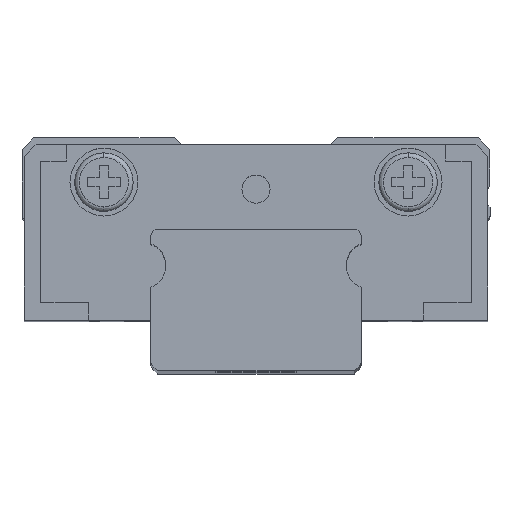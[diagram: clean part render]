
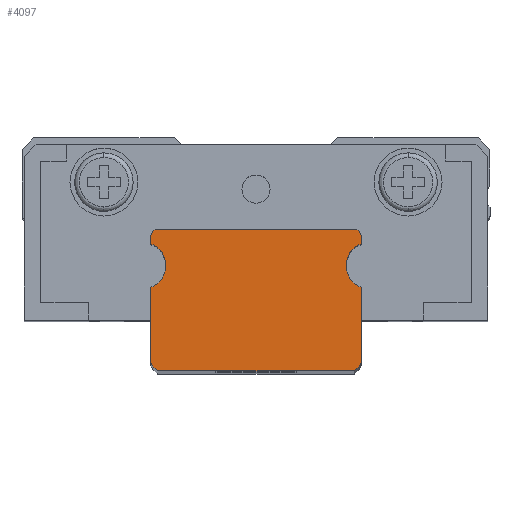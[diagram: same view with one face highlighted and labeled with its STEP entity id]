
A CAD part, top view. The second image highlights one B-rep face of the part: STEP entity #4097.
In plain terms, the highlighted planar face has unit normal (0, 0, 1).
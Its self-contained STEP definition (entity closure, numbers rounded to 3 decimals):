
#168 = ORIENTED_EDGE ( 'NONE', *, *, #11057, .T. ) ;
#179 = VERTEX_POINT ( 'NONE', #910 ) ;
#465 = CARTESIAN_POINT ( 'NONE',  ( -4.5, 0.424, 80. ) ) ;
#546 = VERTEX_POINT ( 'NONE', #5192 ) ;
#572 = DIRECTION ( 'NONE',  ( 1., 0., 0. ) ) ;
#842 = EDGE_CURVE ( 'NONE', #11791, #10097, #5273, .T. ) ;
#895 = VERTEX_POINT ( 'NONE', #3646 ) ;
#910 = CARTESIAN_POINT ( 'NONE',  ( -4.309, 6.05, 80. ) ) ;
#1051 = EDGE_CURVE ( 'NONE', #5783, #11094, #1657, .T. ) ;
#1071 = AXIS2_PLACEMENT_3D ( 'NONE', #10131, #8027, #9086 ) ;
#1224 = CARTESIAN_POINT ( 'NONE',  ( 4.85, 4.5, 80. ) ) ;
#1247 = CARTESIAN_POINT ( 'NONE',  ( 3.85, 4.5, 80. ) ) ;
#1300 = DIRECTION ( 'NONE',  ( 0., 0., -1. ) ) ;
#1317 = VECTOR ( 'NONE', #2280, 1000. ) ;
#1569 = ORIENTED_EDGE ( 'NONE', *, *, #11492, .T. ) ;
#1654 = VECTOR ( 'NONE', #7160, 1000. ) ;
#1657 = CIRCLE ( 'NONE', #9015, 0.3 ) ;
#1687 = CARTESIAN_POINT ( 'NONE',  ( 4.2, 0., 80. ) ) ;
#1880 = DIRECTION ( 'NONE',  ( 0., 0., 1. ) ) ;
#1995 = VERTEX_POINT ( 'NONE', #9232 ) ;
#2025 = VERTEX_POINT ( 'NONE', #10306 ) ;
#2093 = VECTOR ( 'NONE', #6023, 1000. ) ;
#2127 = VECTOR ( 'NONE', #2634, 1000. ) ;
#2169 = ORIENTED_EDGE ( 'NONE', *, *, #10144, .T. ) ;
#2280 = DIRECTION ( 'NONE',  ( 0., -1., 0. ) ) ;
#2502 = DIRECTION ( 'NONE',  ( 1., 0., 0. ) ) ;
#2560 = CARTESIAN_POINT ( 'NONE',  ( 4.412, 0.212, 80. ) ) ;
#2634 = DIRECTION ( 'NONE',  ( -0.707, -0.707, 0. ) ) ;
#2737 = ORIENTED_EDGE ( 'NONE', *, *, #7597, .T. ) ;
#2845 = LINE ( 'NONE', #11078, #6461 ) ;
#2873 = DIRECTION ( 'NONE',  ( 1., 0., 0. ) ) ;
#2909 = EDGE_CURVE ( 'NONE', #6314, #11791, #5676, .T. ) ;
#3146 = EDGE_CURVE ( 'NONE', #2025, #3468, #12414, .T. ) ;
#3332 = CARTESIAN_POINT ( 'NONE',  ( -4.2, 0.424, 80. ) ) ;
#3462 = AXIS2_PLACEMENT_3D ( 'NONE', #3775, #12260, #12222 ) ;
#3468 = VERTEX_POINT ( 'NONE', #5156 ) ;
#3481 = DIRECTION ( 'NONE',  ( 0., 0., 1. ) ) ;
#3493 = VERTEX_POINT ( 'NONE', #1247 ) ;
#3507 = DIRECTION ( 'NONE',  ( 0., 1., 0. ) ) ;
#3629 = AXIS2_PLACEMENT_3D ( 'NONE', #3332, #7161, #9999 ) ;
#3646 = CARTESIAN_POINT ( 'NONE',  ( 4.309, 6.05, 80. ) ) ;
#3775 = CARTESIAN_POINT ( 'NONE',  ( 4.2, 5.734, 80. ) ) ;
#4097 = ADVANCED_FACE ( 'NONE', ( #4459 ), #11971, .T. ) ;
#4148 = AXIS2_PLACEMENT_3D ( 'NONE', #10169, #9382, #2502 ) ;
#4153 = VECTOR ( 'NONE', #9168, 1000. ) ;
#4164 = CIRCLE ( 'NONE', #3462, 0.3 ) ;
#4256 = CARTESIAN_POINT ( 'NONE',  ( 4.309, 6.05, 80. ) ) ;
#4270 = EDGE_CURVE ( 'NONE', #5463, #895, #8457, .T. ) ;
#4375 = VECTOR ( 'NONE', #8529, 1000. ) ;
#4459 = FACE_OUTER_BOUND ( 'NONE', #9920, .T. ) ;
#4522 = LINE ( 'NONE', #12001, #1654 ) ;
#4531 = LINE ( 'NONE', #4830, #5726 ) ;
#4587 = EDGE_CURVE ( 'NONE', #179, #5783, #4988, .T. ) ;
#4830 = CARTESIAN_POINT ( 'NONE',  ( 4.2, 0., 80. ) ) ;
#4953 = LINE ( 'NONE', #10782, #2093 ) ;
#4988 = LINE ( 'NONE', #7405, #2127 ) ;
#5156 = CARTESIAN_POINT ( 'NONE',  ( 4.5, 5.734, 80. ) ) ;
#5190 = EDGE_CURVE ( 'NONE', #10549, #3493, #7532, .T. ) ;
#5192 = CARTESIAN_POINT ( 'NONE',  ( -4.5, 3.563, 80. ) ) ;
#5273 = LINE ( 'NONE', #8456, #4375 ) ;
#5463 = VERTEX_POINT ( 'NONE', #10135 ) ;
#5473 = CARTESIAN_POINT ( 'NONE',  ( -4.412, 5.946, 80. ) ) ;
#5676 = CIRCLE ( 'NONE', #3629, 0.3 ) ;
#5726 = VECTOR ( 'NONE', #10660, 1000. ) ;
#5783 = VERTEX_POINT ( 'NONE', #5473 ) ;
#5792 = VERTEX_POINT ( 'NONE', #1687 ) ;
#5823 = DIRECTION ( 'NONE',  ( 0., 0., -1. ) ) ;
#5856 = VERTEX_POINT ( 'NONE', #11432 ) ;
#5996 = CARTESIAN_POINT ( 'NONE',  ( -4.5, 5.734, 80. ) ) ;
#6023 = DIRECTION ( 'NONE',  ( 1., 0., 0. ) ) ;
#6117 = DIRECTION ( 'NONE',  ( 1., 0., 0. ) ) ;
#6212 = DIRECTION ( 'NONE',  ( -1., 0., 0. ) ) ;
#6267 = EDGE_CURVE ( 'NONE', #11094, #5856, #4522, .T. ) ;
#6314 = VERTEX_POINT ( 'NONE', #465 ) ;
#6382 = CARTESIAN_POINT ( 'NONE',  ( 4.2, 0.424, 80. ) ) ;
#6386 = ORIENTED_EDGE ( 'NONE', *, *, #8566, .T. ) ;
#6461 = VECTOR ( 'NONE', #3507, 1000. ) ;
#6510 = ORIENTED_EDGE ( 'NONE', *, *, #8856, .T. ) ;
#6570 = LINE ( 'NONE', #4256, #7014 ) ;
#6745 = ORIENTED_EDGE ( 'NONE', *, *, #2909, .T. ) ;
#6777 = ORIENTED_EDGE ( 'NONE', *, *, #1051, .T. ) ;
#6789 = CIRCLE ( 'NONE', #4148, 1. ) ;
#6971 = EDGE_CURVE ( 'NONE', #546, #6314, #11404, .T. ) ;
#7014 = VECTOR ( 'NONE', #6212, 1000. ) ;
#7088 = CARTESIAN_POINT ( 'NONE',  ( -4.2, 0., 80. ) ) ;
#7160 = DIRECTION ( 'NONE',  ( 0., -1., 0. ) ) ;
#7161 = DIRECTION ( 'NONE',  ( 0., 0., 1. ) ) ;
#7405 = CARTESIAN_POINT ( 'NONE',  ( -4.309, 6.05, 80. ) ) ;
#7462 = AXIS2_PLACEMENT_3D ( 'NONE', #1224, #1300, #6117 ) ;
#7532 = CIRCLE ( 'NONE', #10891, 1. ) ;
#7597 = EDGE_CURVE ( 'NONE', #895, #179, #6570, .T. ) ;
#7803 = ORIENTED_EDGE ( 'NONE', *, *, #6267, .T. ) ;
#7847 = VERTEX_POINT ( 'NONE', #2560 ) ;
#7897 = EDGE_CURVE ( 'NONE', #3468, #5463, #4164, .T. ) ;
#7976 = CIRCLE ( 'NONE', #11744, 0.3 ) ;
#8027 = DIRECTION ( 'NONE',  ( 0., 0., 1. ) ) ;
#8200 = CARTESIAN_POINT ( 'NONE',  ( 4.5, 5.437, 80. ) ) ;
#8456 = CARTESIAN_POINT ( 'NONE',  ( -4.412, 0.212, 80. ) ) ;
#8457 = LINE ( 'NONE', #9133, #10404 ) ;
#8529 = DIRECTION ( 'NONE',  ( 0.707, -0.707, 0. ) ) ;
#8566 = EDGE_CURVE ( 'NONE', #1995, #10549, #2845, .T. ) ;
#8856 = EDGE_CURVE ( 'NONE', #5792, #7847, #4531, .T. ) ;
#8974 = CARTESIAN_POINT ( 'NONE',  ( -4.5, 3.563, 80. ) ) ;
#8992 = ORIENTED_EDGE ( 'NONE', *, *, #6971, .T. ) ;
#9015 = AXIS2_PLACEMENT_3D ( 'NONE', #10630, #1880, #11640 ) ;
#9080 = ORIENTED_EDGE ( 'NONE', *, *, #5190, .T. ) ;
#9086 = DIRECTION ( 'NONE',  ( 1., 0., 0. ) ) ;
#9133 = CARTESIAN_POINT ( 'NONE',  ( 4.412, 5.946, 80. ) ) ;
#9168 = DIRECTION ( 'NONE',  ( 0., 1., 0. ) ) ;
#9232 = CARTESIAN_POINT ( 'NONE',  ( 4.5, 0.424, 80. ) ) ;
#9341 = CIRCLE ( 'NONE', #7462, 1. ) ;
#9382 = DIRECTION ( 'NONE',  ( 0., 0., -1. ) ) ;
#9681 = ORIENTED_EDGE ( 'NONE', *, *, #12185, .T. ) ;
#9760 = ORIENTED_EDGE ( 'NONE', *, *, #842, .T. ) ;
#9920 = EDGE_LOOP ( 'NONE', ( #1569, #6386, #9080, #168, #10205, #11418, #11016, #2737, #10260, #6777, #7803, #2169, #8992, #6745, #9760, #9681, #6510 ) ) ;
#9999 = DIRECTION ( 'NONE',  ( 1., 0., 0. ) ) ;
#10053 = DIRECTION ( 'NONE',  ( -0.707, 0.707, 0. ) ) ;
#10097 = VERTEX_POINT ( 'NONE', #7088 ) ;
#10131 = CARTESIAN_POINT ( 'NONE',  ( 4.2, 0.424, 80. ) ) ;
#10135 = CARTESIAN_POINT ( 'NONE',  ( 4.412, 5.946, 80. ) ) ;
#10144 = EDGE_CURVE ( 'NONE', #5856, #546, #6789, .T. ) ;
#10169 = CARTESIAN_POINT ( 'NONE',  ( -4.85, 4.5, 80. ) ) ;
#10205 = ORIENTED_EDGE ( 'NONE', *, *, #3146, .T. ) ;
#10260 = ORIENTED_EDGE ( 'NONE', *, *, #4587, .T. ) ;
#10306 = CARTESIAN_POINT ( 'NONE',  ( 4.5, 5.437, 80. ) ) ;
#10404 = VECTOR ( 'NONE', #10053, 1000. ) ;
#10549 = VERTEX_POINT ( 'NONE', #10668 ) ;
#10630 = CARTESIAN_POINT ( 'NONE',  ( -4.2, 5.734, 80. ) ) ;
#10660 = DIRECTION ( 'NONE',  ( 0.707, 0.707, 0. ) ) ;
#10668 = CARTESIAN_POINT ( 'NONE',  ( 4.5, 3.563, 80. ) ) ;
#10782 = CARTESIAN_POINT ( 'NONE',  ( -4.2, 0., 80. ) ) ;
#10891 = AXIS2_PLACEMENT_3D ( 'NONE', #12252, #5823, #2873 ) ;
#11016 = ORIENTED_EDGE ( 'NONE', *, *, #4270, .T. ) ;
#11057 = EDGE_CURVE ( 'NONE', #3493, #2025, #9341, .T. ) ;
#11078 = CARTESIAN_POINT ( 'NONE',  ( 4.5, 0.424, 80. ) ) ;
#11094 = VERTEX_POINT ( 'NONE', #5996 ) ;
#11404 = LINE ( 'NONE', #8974, #1317 ) ;
#11418 = ORIENTED_EDGE ( 'NONE', *, *, #7897, .T. ) ;
#11432 = CARTESIAN_POINT ( 'NONE',  ( -4.5, 5.437, 80. ) ) ;
#11492 = EDGE_CURVE ( 'NONE', #7847, #1995, #7976, .T. ) ;
#11520 = CARTESIAN_POINT ( 'NONE',  ( -4.412, 0.212, 80. ) ) ;
#11640 = DIRECTION ( 'NONE',  ( 1., 0., 0. ) ) ;
#11744 = AXIS2_PLACEMENT_3D ( 'NONE', #6382, #3481, #572 ) ;
#11791 = VERTEX_POINT ( 'NONE', #11520 ) ;
#11971 = PLANE ( 'NONE',  #1071 ) ;
#12001 = CARTESIAN_POINT ( 'NONE',  ( -4.5, 5.734, 80. ) ) ;
#12185 = EDGE_CURVE ( 'NONE', #10097, #5792, #4953, .T. ) ;
#12222 = DIRECTION ( 'NONE',  ( 1., 0., 0. ) ) ;
#12252 = CARTESIAN_POINT ( 'NONE',  ( 4.85, 4.5, 80. ) ) ;
#12260 = DIRECTION ( 'NONE',  ( 0., 0., 1. ) ) ;
#12414 = LINE ( 'NONE', #8200, #4153 ) ;
